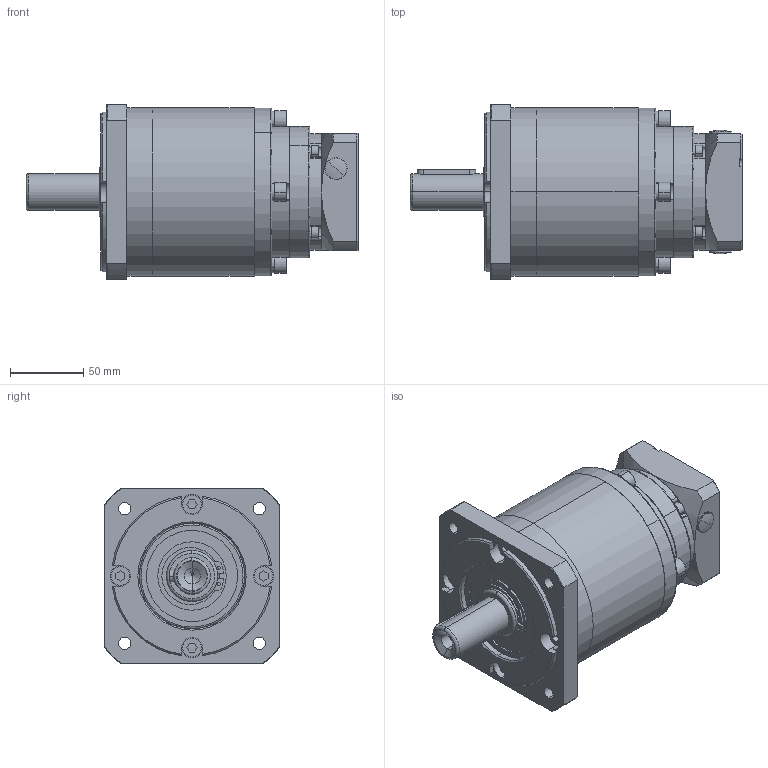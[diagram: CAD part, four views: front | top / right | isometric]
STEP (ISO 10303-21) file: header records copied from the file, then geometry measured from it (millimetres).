
FILE_DESCRIPTION (( 'STEP AP203' ), '1' );
FILE_NAME ('PF115L3-i-P2-S2-19-40-70-90-M6.step', '2020-03-23T09:06:23', ( '个人用户' ), ( '微软中国' ), 'SwSTEP 2.0', 'SolidWorks 2018', '' );
FILE_SCHEMA (( 'CONFIG_CONTROL_DESIGN' ));
Length unit declared in the file: millimetre
Products named in the file (1): PF115L3-i-P2-S2-19-40-70-90-M6
Bounding box: 227 x 120 x 120 mm (x, y, z)
Volume: 1131089 mm3; surface area: 312260.8 mm2
Topology: 53 solids, 53 shells, 1553 faces, 3643 edges, 2302 vertices
Faces by surface type: cylinder 532, plane 430, sphere 242, cone 176, torus 171, bspline 2
Entity records: 52851 total; most frequent: CARTESIAN_POINT 16400, DIRECTION 8178, ORIENTED_EDGE 7190, EDGE_CURVE 3595, AXIS2_PLACEMENT_3D 3490, VERTEX_POINT 2302, CIRCLE 1938, EDGE_LOOP 1809
